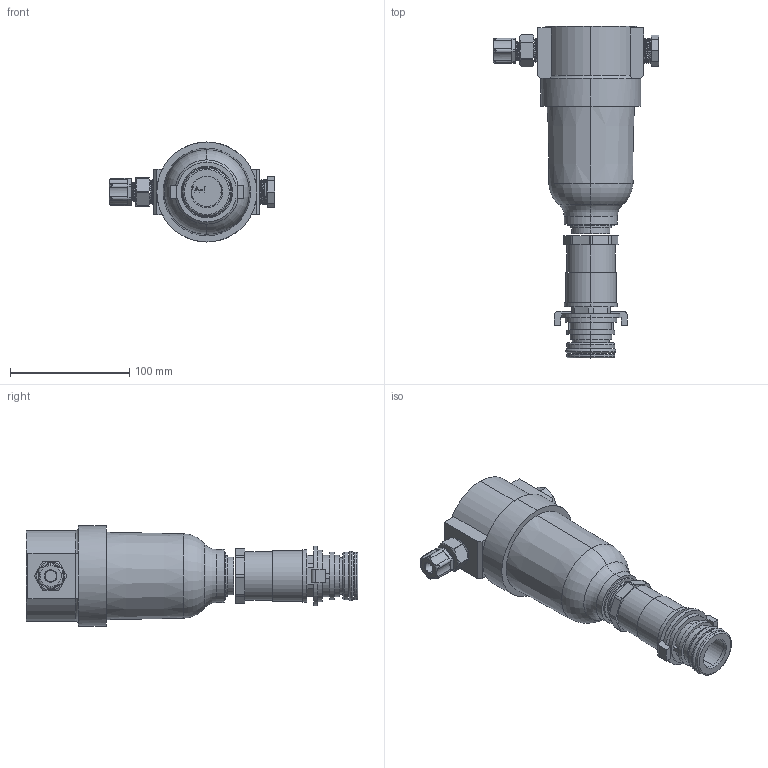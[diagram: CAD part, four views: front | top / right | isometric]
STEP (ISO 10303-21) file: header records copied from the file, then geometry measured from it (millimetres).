
FILE_DESCRIPTION (( 'STEP AP214' ), '1' );
FILE_NAME ('9-1144-01.STEP', '2018-07-25T15:49:48', ( '' ), ( '' ), 'SwSTEP 2.0', 'SolidWorks 2017', '' );
FILE_SCHEMA (( 'AUTOMOTIVE_DESIGN' ));
Length unit declared in the file: inch
Products named in the file (1): 9-1144-01
Bounding box: 138.97 x 278.11 x 83.82 mm (x, y, z)
Surface area: 85362.3 mm2 (no closed solid volume)
Topology: 0 solids, 12 shells, 343 faces, 1051 edges, 726 vertices
Faces by surface type: plane 153, cylinder 99, cone 62, torus 17, bspline 12
Entity records: 26784 total; most frequent: CARTESIAN_POINT 13326, ORIENTED_EDGE 1821, DIRECTION 1735, EDGE_CURVE 1051, VERTEX_POINT 726, AXIS2_PLACEMENT_3D 579, LINE 577, VECTOR 577
